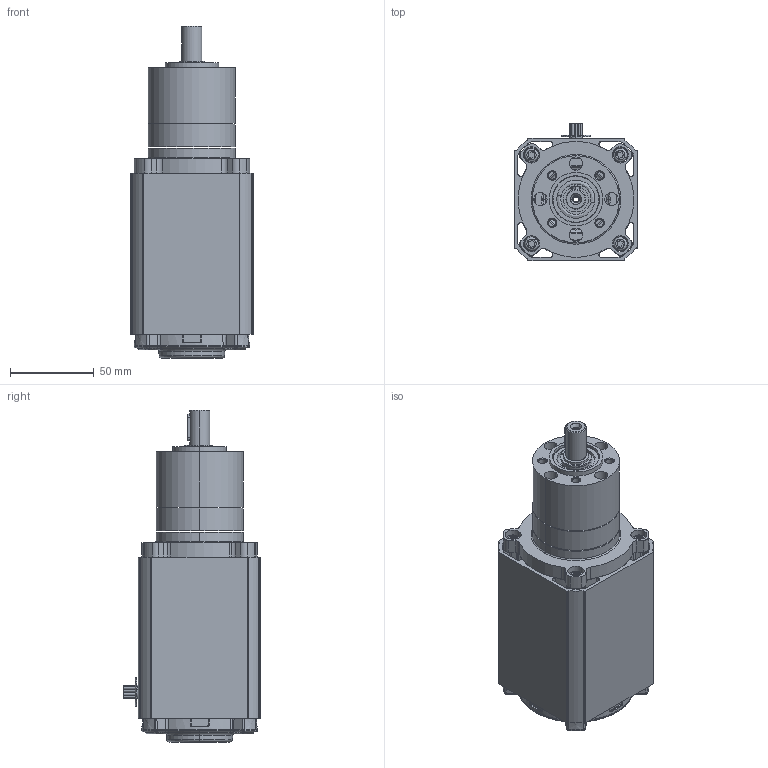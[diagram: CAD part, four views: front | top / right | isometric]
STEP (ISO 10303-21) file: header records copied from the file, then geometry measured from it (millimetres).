
FILE_DESCRIPTION (( 'STEP AP214' ), '1' );
FILE_NAME ('BL6520-PL5200i_1S.STEP', '2013-03-04T13:22:14', ( '' ), ( '' ), 'SwSTEP 2.0', 'SolidWorks 2013', '' );
FILE_SCHEMA (( 'AUTOMOTIVE_DESIGN' ));
Length unit declared in the file: inch
Products named in the file (1): BL6520-PL5200i_1S
Bounding box: 73.36 x 82.37 x 198.24 mm (x, y, z)
Surface area: 94727 mm2 (no closed solid volume)
Topology: 0 solids, 57 shells, 922 faces, 3149 edges, 2240 vertices
Faces by surface type: cylinder 386, plane 264, torus 100, cone 95, bspline 69, sphere 8
Entity records: 51367 total; most frequent: CARTESIAN_POINT 12726, DIRECTION 5614, ORIENTED_EDGE 5134, EDGE_CURVE 3141, VERTEX_POINT 2240, AXIS2_PLACEMENT_3D 2120, VECTOR 1374, LINE 1374
